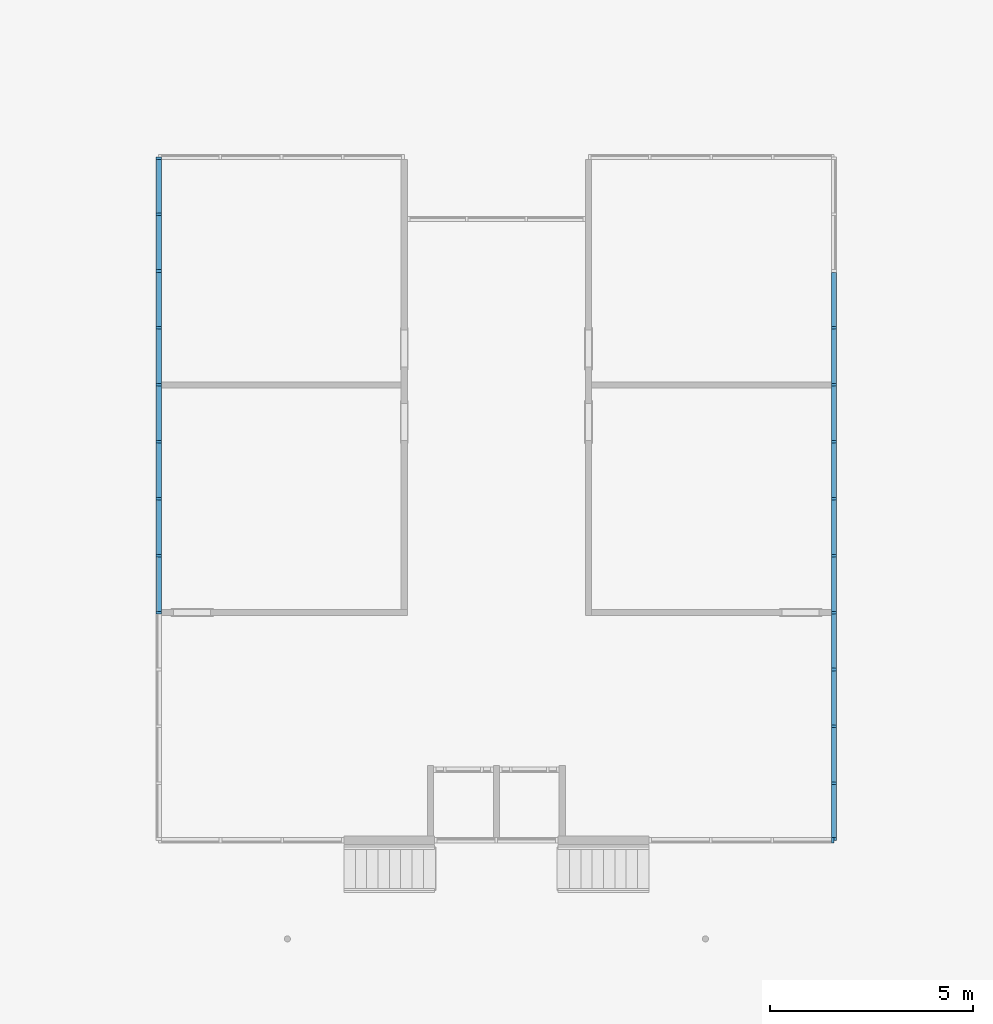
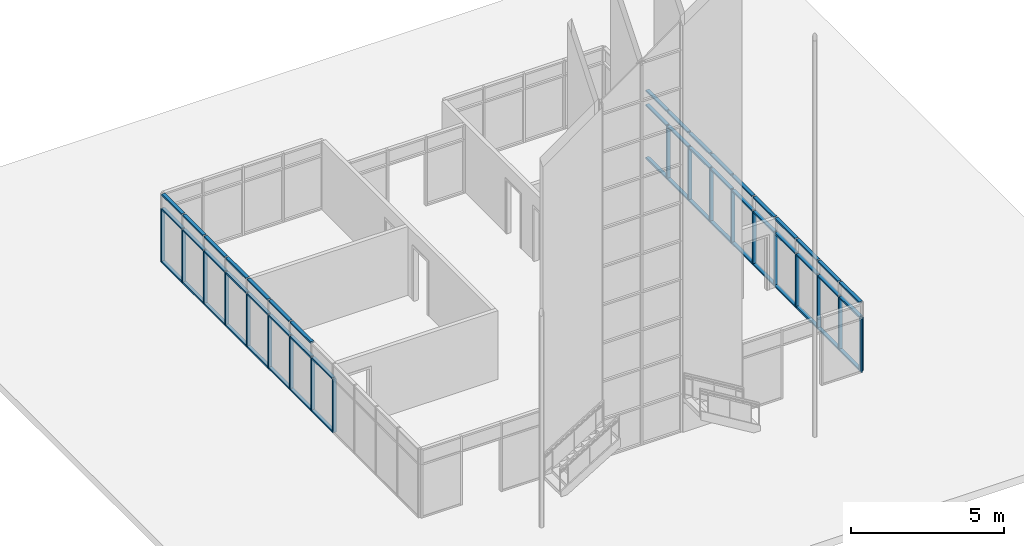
# One storey, part 3 of 12: 73 members, 3 elements without a shape of their own.
"""IFC2X3 building model written with IfcOpenShell, lengths in feet."""

from ifc_helpers import new_model, entity, si_unit, converted_unit, derived_unit, direction, frame, origin, origin_2d_with_axis, place, context, subcontext, project, spatial, rectangle, extrude, source, transform, mapped, material, type_object, type_shapes, element, aggregate, save


model = new_model("IFC2X3")

# Units and contexts
model_context = context("Model", 3, precision=0.0001, world=origin(), true_north=direction((6.12303176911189e-17, 1.0)))
body_context = subcontext(model_context, "Body", "Model", "MODEL_VIEW")
ifc_project = project(units=[converted_unit("LENGTHUNIT", "FOOT", entity("IfcRatioMeasure", 0.3048), si_unit("LENGTHUNIT", "METRE"), dimensions=[1, 0, 0, 0, 0, 0, 0]), converted_unit("AREAUNIT", "SQUARE FOOT", entity("IfcRatioMeasure", 0.09290304), si_unit("AREAUNIT", "SQUARE_METRE"), dimensions=[2, 0, 0, 0, 0, 0, 0]), converted_unit("VOLUMEUNIT", "CUBIC FOOT", entity("IfcRatioMeasure", 0.028316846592), si_unit("VOLUMEUNIT", "CUBIC_METRE"), dimensions=[3, 0, 0, 0, 0, 0, 0]), converted_unit("PLANEANGLEUNIT", "DEGREE", entity("IfcRatioMeasure", 0.0174532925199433), si_unit("PLANEANGLEUNIT", "RADIAN"), dimensions=[0, 0, 0, 0, 0, 0, 0]), si_unit("MASSUNIT", "GRAM", prefix="KILO"), derived_unit("MASSDENSITYUNIT", [(si_unit("MASSUNIT", "GRAM", prefix="KILO"), 1), (si_unit("LENGTHUNIT", "METRE"), -3)]), si_unit("TIMEUNIT", "SECOND"), si_unit("FREQUENCYUNIT", "HERTZ"), si_unit("THERMODYNAMICTEMPERATUREUNIT", "DEGREE_CELSIUS"), derived_unit("THERMALTRANSMITTANCEUNIT", [(si_unit("MASSUNIT", "GRAM", prefix="KILO"), 1), (si_unit("THERMODYNAMICTEMPERATUREUNIT", "KELVIN"), -1), (si_unit("TIMEUNIT", "SECOND"), -3)]), derived_unit("VOLUMETRICFLOWRATEUNIT", [(si_unit("LENGTHUNIT", "METRE"), 3), (si_unit("TIMEUNIT", "SECOND"), -1)]), si_unit("ELECTRICCURRENTUNIT", "AMPERE"), si_unit("ELECTRICVOLTAGEUNIT", "VOLT"), si_unit("POWERUNIT", "WATT"), si_unit("FORCEUNIT", "NEWTON"), si_unit("ILLUMINANCEUNIT", "LUX"), si_unit("LUMINOUSFLUXUNIT", "LUMEN"), si_unit("LUMINOUSINTENSITYUNIT", "CANDELA"), derived_unit("USERDEFINED", [(si_unit("MASSUNIT", "GRAM", prefix="KILO"), -1), (si_unit("LENGTHUNIT", "METRE"), -2), (si_unit("TIMEUNIT", "SECOND"), 3), (si_unit("LUMINOUSFLUXUNIT", "LUMEN"), 1)]), derived_unit("LINEARVELOCITYUNIT", [(si_unit("LENGTHUNIT", "METRE"), 1), (si_unit("TIMEUNIT", "SECOND"), -1)]), si_unit("PRESSUREUNIT", "PASCAL"), derived_unit("USERDEFINED", [(si_unit("LENGTHUNIT", "METRE"), -2), (si_unit("MASSUNIT", "GRAM", prefix="KILO"), 1), (si_unit("TIMEUNIT", "SECOND"), -2)])], contexts=[model_context])

# Site, building, storey
site_placement = place(None, origin())
site = spatial("IfcSite", under=ifc_project, at=site_placement, Name="Default", CompositionType="ELEMENT")
building_placement = place(site_placement, origin())
building = spatial("IfcBuilding", under=site, at=building_placement, CompositionType="ELEMENT")
storey_placement = place(building_placement, origin())
storey = spatial("IfcBuildingStorey", under=building, at=storey_placement, Name="Level 1", CompositionType="ELEMENT", Elevation=0.0)

# Curtain wall, member
curtain_wall_type = type_object("IfcCurtainWallType", Name="Curtain Wall:Storefront 2", PredefinedType="NOTDEFINED")
curtain_wall_1_placement = place(storey_placement, origin())
curtain_wall_1 = element("IfcCurtainWall", 1, at=curtain_wall_1_placement, inside=storey, type_object=curtain_wall_type, Name="Curtain Wall:Storefront 2", ObjectType="Curtain Wall:Storefront 2")
ifc_material = material(Name="Aluminum")
member_type_1 = type_object("IfcMemberType", Name="2.5\" x 5\" rectangular", PredefinedType="MEMBER")
shared_shape_1 = source(origin(), body_context, "Body", "SweptSolid", [
    extrude(rectangle(XDim=0.416666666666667, YDim=0.208333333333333, at=origin_2d_with_axis()), frame((-0.104166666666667, 0.0, -7.0), z_axis=(0.0, 0.0, 1.0), x_axis=(0.0, -1.0, 0.0)), (0.0, 0.0, 1.0), 7.0),
])
type_shapes(member_type_1, [shared_shape_1])
member_1_placement = place(storey_placement, frame((-61.3251627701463, 48.3505254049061, 0.0), z_axis=(0.0, 0.0, -1.0), x_axis=(0.0, 1.0, 0.0)))
member_1 = element("IfcMember", 2, at=member_1_placement, type_object=member_type_1, material=ifc_material, Name="Rectangular Mullion:2.5\" x 5\" rectangular", ObjectType="2.5\" x 5\" rectangular", context=body_context, shape_type="MappedRepresentation", body=[
    mapped(shared_shape_1, transform((0.0, 0.0, 0.0), scale=1.0)),
])

curtain_wall_2_placement = place(storey_placement, origin())
curtain_wall_2 = element("IfcCurtainWall", 3, at=curtain_wall_2_placement, inside=storey, type_object=curtain_wall_type, Name="Curtain Wall:Storefront 2", ObjectType="Curtain Wall:Storefront 2")
member_2_placement = place(storey_placement, frame((-6.65849610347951, -6.9411412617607, 0.0), z_axis=(0.0, 0.0, -1.0), x_axis=(0.0, -1.0, 0.0)))
member_2 = element("IfcMember", 4, at=member_2_placement, type_object=member_type_1, material=ifc_material, Name="Rectangular Mullion:2.5\" x 5\" rectangular", ObjectType="2.5\" x 5\" rectangular", context=body_context, shape_type="MappedRepresentation", body=[
    mapped(shared_shape_1, transform((0.0, 0.0, 0.0), scale=1.0)),
])

curtain_wall_3_placement = place(storey_placement, origin())
curtain_wall_3 = element("IfcCurtainWall", 5, at=curtain_wall_3_placement, inside=storey, type_object=curtain_wall_type, Name="Curtain Wall:Storefront 2", ObjectType="Curtain Wall:Storefront 2")
member_type_2 = type_object("IfcMemberType", Name="2.5\" x 5\" rectangular", PredefinedType="MEMBER")
shared_shape_2 = source(origin(), body_context, "Body", "SweptSolid", [
    extrude(rectangle(XDim=0.416666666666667, YDim=0.208333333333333, at=origin_2d_with_axis()), frame((-0.104166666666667, 0.0, -7.0), z_axis=(0.0, 0.0, 1.0), x_axis=(0.0, -1.0, 0.0)), (0.0, 0.0, 1.0), 7.0),
])
type_shapes(member_type_2, [shared_shape_2])
member_3_placement = place(storey_placement, frame((-6.65849610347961, -6.94114126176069, 7.0)))
member_3 = element("IfcMember", 6, at=member_3_placement, type_object=member_type_2, material=ifc_material, Name="Rectangular Mullion:2.5\" x 5\" rectangular", ObjectType="2.5\" x 5\" rectangular", context=body_context, shape_type="MappedRepresentation", body=[
    mapped(shared_shape_2, transform((0.0, 0.0, 0.0), scale=1.0)),
])
aggregate(curtain_wall_3, [member_3])

# Member
member_type_3 = type_object("IfcMemberType", Name="2.5\" x 5\" rectangular", PredefinedType="MEMBER")
shared_shape_3 = source(origin(), body_context, "Body", "SweptSolid", [
    extrude(rectangle(XDim=0.416666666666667, YDim=0.208333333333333, at=origin_2d_with_axis()), frame((0.0, 0.0, -7.0), z_axis=(0.0, 0.0, 1.0), x_axis=(0.0, -1.0, 0.0)), (0.0, 0.0, 1.0), 7.0),
])
type_shapes(member_type_3, [shared_shape_3])
member_4_placement = place(storey_placement, frame((-61.3251627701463, 11.489414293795, 0.0), z_axis=(0.0, 0.0, -1.0), x_axis=(0.0, 1.0, 0.0)))
member_4 = element("IfcMember", 7, at=member_4_placement, type_object=member_type_3, material=ifc_material, Name="Rectangular Mullion:2.5\" x 5\" rectangular", ObjectType="2.5\" x 5\" rectangular", context=body_context, shape_type="MappedRepresentation", body=[
    mapped(shared_shape_3, transform((0.0, 0.0, 0.0), scale=1.0)),
])

member_5_placement = place(storey_placement, frame((-61.3251627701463, 16.0970531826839, 0.0), z_axis=(0.0, 0.0, -1.0), x_axis=(0.0, 1.0, 0.0)))
member_5 = element("IfcMember", 8, at=member_5_placement, type_object=member_type_3, material=ifc_material, Name="Rectangular Mullion:2.5\" x 5\" rectangular", ObjectType="2.5\" x 5\" rectangular", context=body_context, shape_type="MappedRepresentation", body=[
    mapped(shared_shape_3, transform((0.0, 0.0, 0.0), scale=1.0)),
])

member_6_placement = place(storey_placement, frame((-61.3251627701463, 20.7046920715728, 0.0), z_axis=(0.0, 0.0, -1.0), x_axis=(0.0, 1.0, 0.0)))
member_6 = element("IfcMember", 9, at=member_6_placement, type_object=member_type_3, material=ifc_material, Name="Rectangular Mullion:2.5\" x 5\" rectangular", ObjectType="2.5\" x 5\" rectangular", context=body_context, shape_type="MappedRepresentation", body=[
    mapped(shared_shape_3, transform((0.0, 0.0, 0.0), scale=1.0)),
])

member_7_placement = place(storey_placement, frame((-61.3251627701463, 25.3123309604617, 0.0), z_axis=(0.0, 0.0, -1.0), x_axis=(0.0, 1.0, 0.0)))
member_7 = element("IfcMember", 10, at=member_7_placement, type_object=member_type_3, material=ifc_material, Name="Rectangular Mullion:2.5\" x 5\" rectangular", ObjectType="2.5\" x 5\" rectangular", context=body_context, shape_type="MappedRepresentation", body=[
    mapped(shared_shape_3, transform((0.0, 0.0, 0.0), scale=1.0)),
])

member_8_placement = place(storey_placement, frame((-61.3251627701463, 29.9199698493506, 0.0), z_axis=(0.0, 0.0, -1.0), x_axis=(0.0, 1.0, 0.0)))
member_8 = element("IfcMember", 11, at=member_8_placement, type_object=member_type_3, material=ifc_material, Name="Rectangular Mullion:2.5\" x 5\" rectangular", ObjectType="2.5\" x 5\" rectangular", context=body_context, shape_type="MappedRepresentation", body=[
    mapped(shared_shape_3, transform((0.0, 0.0, 0.0), scale=1.0)),
])

member_9_placement = place(storey_placement, frame((-61.3251627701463, 34.5276087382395, 0.0), z_axis=(0.0, 0.0, -1.0), x_axis=(0.0, 1.0, 0.0)))
member_9 = element("IfcMember", 12, at=member_9_placement, type_object=member_type_3, material=ifc_material, Name="Rectangular Mullion:2.5\" x 5\" rectangular", ObjectType="2.5\" x 5\" rectangular", context=body_context, shape_type="MappedRepresentation", body=[
    mapped(shared_shape_3, transform((0.0, 0.0, 0.0), scale=1.0)),
])

member_10_placement = place(storey_placement, frame((-61.3251627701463, 39.1352476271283, 0.0), z_axis=(0.0, 0.0, -1.0), x_axis=(0.0, 1.0, 0.0)))
member_10 = element("IfcMember", 13, at=member_10_placement, type_object=member_type_3, material=ifc_material, Name="Rectangular Mullion:2.5\" x 5\" rectangular", ObjectType="2.5\" x 5\" rectangular", context=body_context, shape_type="MappedRepresentation", body=[
    mapped(shared_shape_3, transform((0.0, 0.0, 0.0), scale=1.0)),
])

member_11_placement = place(storey_placement, frame((-61.3251627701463, 43.7428865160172, 0.0), z_axis=(0.0, 0.0, -1.0), x_axis=(0.0, 1.0, 0.0)))
member_11 = element("IfcMember", 14, at=member_11_placement, type_object=member_type_3, material=ifc_material, Name="Rectangular Mullion:2.5\" x 5\" rectangular", ObjectType="2.5\" x 5\" rectangular", context=body_context, shape_type="MappedRepresentation", body=[
    mapped(shared_shape_3, transform((0.0, 0.0, 0.0), scale=1.0)),
])

member_12_placement = place(storey_placement, frame((-6.65849610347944, 34.5276087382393, 0.0), z_axis=(0.0, 0.0, -1.0), x_axis=(0.0, -1.0, 0.0)))
member_12 = element("IfcMember", 15, at=member_12_placement, type_object=member_type_3, material=ifc_material, Name="Rectangular Mullion:2.5\" x 5\" rectangular", ObjectType="2.5\" x 5\" rectangular", context=body_context, shape_type="MappedRepresentation", body=[
    mapped(shared_shape_3, transform((0.0, 0.0, 0.0), scale=1.0)),
])

member_13_placement = place(storey_placement, frame((-6.65849610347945, 29.9199698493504, 0.0), z_axis=(0.0, 0.0, -1.0), x_axis=(0.0, -1.0, 0.0)))
member_13 = element("IfcMember", 16, at=member_13_placement, type_object=member_type_3, material=ifc_material, Name="Rectangular Mullion:2.5\" x 5\" rectangular", ObjectType="2.5\" x 5\" rectangular", context=body_context, shape_type="MappedRepresentation", body=[
    mapped(shared_shape_3, transform((0.0, 0.0, 0.0), scale=1.0)),
])

member_14_placement = place(storey_placement, frame((-6.65849610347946, 25.3123309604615, 0.0), z_axis=(0.0, 0.0, -1.0), x_axis=(0.0, -1.0, 0.0)))
member_14 = element("IfcMember", 17, at=member_14_placement, type_object=member_type_3, material=ifc_material, Name="Rectangular Mullion:2.5\" x 5\" rectangular", ObjectType="2.5\" x 5\" rectangular", context=body_context, shape_type="MappedRepresentation", body=[
    mapped(shared_shape_3, transform((0.0, 0.0, 0.0), scale=1.0)),
])

member_15_placement = place(storey_placement, frame((-6.65849610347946, 20.7046920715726, 0.0), z_axis=(0.0, 0.0, -1.0), x_axis=(0.0, -1.0, 0.0)))
member_15 = element("IfcMember", 18, at=member_15_placement, type_object=member_type_3, material=ifc_material, Name="Rectangular Mullion:2.5\" x 5\" rectangular", ObjectType="2.5\" x 5\" rectangular", context=body_context, shape_type="MappedRepresentation", body=[
    mapped(shared_shape_3, transform((0.0, 0.0, 0.0), scale=1.0)),
])

member_16_placement = place(storey_placement, frame((-6.65849610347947, 16.0970531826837, 0.0), z_axis=(0.0, 0.0, -1.0), x_axis=(0.0, -1.0, 0.0)))
member_16 = element("IfcMember", 19, at=member_16_placement, type_object=member_type_3, material=ifc_material, Name="Rectangular Mullion:2.5\" x 5\" rectangular", ObjectType="2.5\" x 5\" rectangular", context=body_context, shape_type="MappedRepresentation", body=[
    mapped(shared_shape_3, transform((0.0, 0.0, 0.0), scale=1.0)),
])

member_17_placement = place(storey_placement, frame((-6.65849610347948, 11.4894142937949, 0.0), z_axis=(0.0, 0.0, -1.0), x_axis=(0.0, -1.0, 0.0)))
member_17 = element("IfcMember", 20, at=member_17_placement, type_object=member_type_3, material=ifc_material, Name="Rectangular Mullion:2.5\" x 5\" rectangular", ObjectType="2.5\" x 5\" rectangular", context=body_context, shape_type="MappedRepresentation", body=[
    mapped(shared_shape_3, transform((0.0, 0.0, 0.0), scale=1.0)),
])

member_18_placement = place(storey_placement, frame((-6.65849610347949, 6.88177540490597, 0.0), z_axis=(0.0, 0.0, -1.0), x_axis=(0.0, -1.0, 0.0)))
member_18 = element("IfcMember", 21, at=member_18_placement, type_object=member_type_3, material=ifc_material, Name="Rectangular Mullion:2.5\" x 5\" rectangular", ObjectType="2.5\" x 5\" rectangular", context=body_context, shape_type="MappedRepresentation", body=[
    mapped(shared_shape_3, transform((0.0, 0.0, 0.0), scale=1.0)),
])

member_19_placement = place(storey_placement, frame((-6.65849610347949, 2.27413651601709, 0.0), z_axis=(0.0, 0.0, -1.0), x_axis=(0.0, -1.0, 0.0)))
member_19 = element("IfcMember", 22, at=member_19_placement, type_object=member_type_3, material=ifc_material, Name="Rectangular Mullion:2.5\" x 5\" rectangular", ObjectType="2.5\" x 5\" rectangular", context=body_context, shape_type="MappedRepresentation", body=[
    mapped(shared_shape_3, transform((0.0, 0.0, 0.0), scale=1.0)),
])

member_20_placement = place(storey_placement, frame((-6.6584961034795, -2.3335023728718, 0.0), z_axis=(0.0, 0.0, -1.0), x_axis=(0.0, -1.0, 0.0)))
member_20 = element("IfcMember", 23, at=member_20_placement, type_object=member_type_3, material=ifc_material, Name="Rectangular Mullion:2.5\" x 5\" rectangular", ObjectType="2.5\" x 5\" rectangular", context=body_context, shape_type="MappedRepresentation", body=[
    mapped(shared_shape_3, transform((0.0, 0.0, 0.0), scale=1.0)),
])

member_type_4 = type_object("IfcMemberType", Name="2.5\" x 5\" rectangular", PredefinedType="MEMBER")
shared_shape_4 = source(origin(), body_context, "Body", "SweptSolid", [
    extrude(rectangle(XDim=0.416666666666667, YDim=0.208333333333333, at=origin_2d_with_axis()), frame((-0.104166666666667, 0.0, -4.2951388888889), z_axis=(0.0, 0.0, 1.0), x_axis=(0.0, -1.0, 0.0)), (0.0, 0.0, 1.0), 4.2951388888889),
])
type_shapes(member_type_4, [shared_shape_4])
member_21_placement = place(storey_placement, frame((-61.3251627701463, 48.1421920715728, 9.0), z_axis=(0.0, 1.0, 0.0), x_axis=(0.0, 0.0, 1.0)))
member_21 = element("IfcMember", 24, at=member_21_placement, type_object=member_type_4, material=ifc_material, Name="Rectangular Mullion:2.5\" x 5\" rectangular", ObjectType="2.5\" x 5\" rectangular", context=body_context, shape_type="MappedRepresentation", body=[
    mapped(shared_shape_4, transform((0.0, 0.0, 0.0), scale=1.0)),
])

member_22_placement = place(storey_placement, frame((-6.65849610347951, -6.73280792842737, 9.0), z_axis=(0.0, -1.0, 0.0), x_axis=(0.0, 0.0, 1.0)))
member_22 = element("IfcMember", 25, at=member_22_placement, type_object=member_type_4, material=ifc_material, Name="Rectangular Mullion:2.5\" x 5\" rectangular", ObjectType="2.5\" x 5\" rectangular", context=body_context, shape_type="MappedRepresentation", body=[
    mapped(shared_shape_4, transform((0.0, 0.0, 0.0), scale=1.0)),
])

member_type_5 = type_object("IfcMemberType", Name="2.5\" x 5\" rectangular", PredefinedType="MEMBER")
shared_shape_5 = source(origin(), body_context, "Body", "SweptSolid", [
    extrude(rectangle(XDim=0.416666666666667, YDim=0.208333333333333, at=origin_2d_with_axis()), frame((-0.104166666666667, 0.0, -4.39930555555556), z_axis=(0.0, 0.0, 1.0), x_axis=(0.0, -1.0, 0.0)), (0.0, 0.0, 1.0), 4.39930555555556),
])
type_shapes(member_type_5, [shared_shape_5])
member_23_placement = place(storey_placement, frame((-61.3251627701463, 20.6005254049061, 9.0), z_axis=(0.0, 1.0, 0.0), x_axis=(0.0, 0.0, 1.0)))
member_23 = element("IfcMember", 26, at=member_23_placement, type_object=member_type_5, material=ifc_material, Name="Rectangular Mullion:2.5\" x 5\" rectangular", ObjectType="2.5\" x 5\" rectangular", context=body_context, shape_type="MappedRepresentation", body=[
    mapped(shared_shape_5, transform((0.0, 0.0, 0.0), scale=1.0)),
])

member_24_placement = place(storey_placement, frame((-61.3251627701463, 25.208164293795, 9.0), z_axis=(0.0, 1.0, 0.0), x_axis=(0.0, 0.0, 1.0)))
member_24 = element("IfcMember", 27, at=member_24_placement, type_object=member_type_5, material=ifc_material, Name="Rectangular Mullion:2.5\" x 5\" rectangular", ObjectType="2.5\" x 5\" rectangular", context=body_context, shape_type="MappedRepresentation", body=[
    mapped(shared_shape_5, transform((0.0, 0.0, 0.0), scale=1.0)),
])

member_25_placement = place(storey_placement, frame((-61.3251627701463, 29.8158031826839, 9.0), z_axis=(0.0, 1.0, 0.0), x_axis=(0.0, 0.0, 1.0)))
member_25 = element("IfcMember", 28, at=member_25_placement, type_object=member_type_5, material=ifc_material, Name="Rectangular Mullion:2.5\" x 5\" rectangular", ObjectType="2.5\" x 5\" rectangular", context=body_context, shape_type="MappedRepresentation", body=[
    mapped(shared_shape_5, transform((0.0, 0.0, 0.0), scale=1.0)),
])

member_26_placement = place(storey_placement, frame((-61.3251627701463, 34.4234420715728, 9.0), z_axis=(0.0, 1.0, 0.0), x_axis=(0.0, 0.0, 1.0)))
member_26 = element("IfcMember", 29, at=member_26_placement, type_object=member_type_5, material=ifc_material, Name="Rectangular Mullion:2.5\" x 5\" rectangular", ObjectType="2.5\" x 5\" rectangular", context=body_context, shape_type="MappedRepresentation", body=[
    mapped(shared_shape_5, transform((0.0, 0.0, 0.0), scale=1.0)),
])

member_27_placement = place(storey_placement, frame((-61.3251627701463, 39.0310809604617, 9.0), z_axis=(0.0, 1.0, 0.0), x_axis=(0.0, 0.0, 1.0)))
member_27 = element("IfcMember", 30, at=member_27_placement, type_object=member_type_5, material=ifc_material, Name="Rectangular Mullion:2.5\" x 5\" rectangular", ObjectType="2.5\" x 5\" rectangular", context=body_context, shape_type="MappedRepresentation", body=[
    mapped(shared_shape_5, transform((0.0, 0.0, 0.0), scale=1.0)),
])

member_28_placement = place(storey_placement, frame((-61.3251627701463, 43.6387198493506, 9.0), z_axis=(0.0, 1.0, 0.0), x_axis=(0.0, 0.0, 1.0)))
member_28 = element("IfcMember", 31, at=member_28_placement, type_object=member_type_5, material=ifc_material, Name="Rectangular Mullion:2.5\" x 5\" rectangular", ObjectType="2.5\" x 5\" rectangular", context=body_context, shape_type="MappedRepresentation", body=[
    mapped(shared_shape_5, transform((0.0, 0.0, 0.0), scale=1.0)),
])

member_29_placement = place(storey_placement, frame((-6.65849610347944, 34.631775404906, 9.0), z_axis=(0.0, -1.0, 0.0), x_axis=(0.0, 0.0, 1.0)))
member_29 = element("IfcMember", 32, at=member_29_placement, type_object=member_type_5, material=ifc_material, Name="Rectangular Mullion:2.5\" x 5\" rectangular", ObjectType="2.5\" x 5\" rectangular", context=body_context, shape_type="MappedRepresentation", body=[
    mapped(shared_shape_5, transform((0.0, 0.0, 0.0), scale=1.0)),
])

member_30_placement = place(storey_placement, frame((-6.65849610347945, 30.0241365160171, 9.0), z_axis=(0.0, -1.0, 0.0), x_axis=(0.0, 0.0, 1.0)))
member_30 = element("IfcMember", 33, at=member_30_placement, type_object=member_type_5, material=ifc_material, Name="Rectangular Mullion:2.5\" x 5\" rectangular", ObjectType="2.5\" x 5\" rectangular", context=body_context, shape_type="MappedRepresentation", body=[
    mapped(shared_shape_5, transform((0.0, 0.0, 0.0), scale=1.0)),
])

member_31_placement = place(storey_placement, frame((-6.65849610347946, 25.4164976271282, 9.0), z_axis=(0.0, -1.0, 0.0), x_axis=(0.0, 0.0, 1.0)))
member_31 = element("IfcMember", 34, at=member_31_placement, type_object=member_type_5, material=ifc_material, Name="Rectangular Mullion:2.5\" x 5\" rectangular", ObjectType="2.5\" x 5\" rectangular", context=body_context, shape_type="MappedRepresentation", body=[
    mapped(shared_shape_5, transform((0.0, 0.0, 0.0), scale=1.0)),
])

member_32_placement = place(storey_placement, frame((-6.65849610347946, 20.8088587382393, 9.0), z_axis=(0.0, -1.0, 0.0), x_axis=(0.0, 0.0, 1.0)))
member_32 = element("IfcMember", 35, at=member_32_placement, type_object=member_type_5, material=ifc_material, Name="Rectangular Mullion:2.5\" x 5\" rectangular", ObjectType="2.5\" x 5\" rectangular", context=body_context, shape_type="MappedRepresentation", body=[
    mapped(shared_shape_5, transform((0.0, 0.0, 0.0), scale=1.0)),
])

member_33_placement = place(storey_placement, frame((-6.65849610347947, 16.2012198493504, 9.0), z_axis=(0.0, -1.0, 0.0), x_axis=(0.0, 0.0, 1.0)))
member_33 = element("IfcMember", 36, at=member_33_placement, type_object=member_type_5, material=ifc_material, Name="Rectangular Mullion:2.5\" x 5\" rectangular", ObjectType="2.5\" x 5\" rectangular", context=body_context, shape_type="MappedRepresentation", body=[
    mapped(shared_shape_5, transform((0.0, 0.0, 0.0), scale=1.0)),
])

member_34_placement = place(storey_placement, frame((-6.65849610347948, 11.5935809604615, 9.0), z_axis=(0.0, -1.0, 0.0), x_axis=(0.0, 0.0, 1.0)))
member_34 = element("IfcMember", 37, at=member_34_placement, type_object=member_type_5, material=ifc_material, Name="Rectangular Mullion:2.5\" x 5\" rectangular", ObjectType="2.5\" x 5\" rectangular", context=body_context, shape_type="MappedRepresentation", body=[
    mapped(shared_shape_5, transform((0.0, 0.0, 0.0), scale=1.0)),
])

member_35_placement = place(storey_placement, frame((-6.65849610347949, 6.98594207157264, 9.0), z_axis=(0.0, -1.0, 0.0), x_axis=(0.0, 0.0, 1.0)))
member_35 = element("IfcMember", 38, at=member_35_placement, type_object=member_type_5, material=ifc_material, Name="Rectangular Mullion:2.5\" x 5\" rectangular", ObjectType="2.5\" x 5\" rectangular", context=body_context, shape_type="MappedRepresentation", body=[
    mapped(shared_shape_5, transform((0.0, 0.0, 0.0), scale=1.0)),
])

member_36_placement = place(storey_placement, frame((-6.65849610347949, 2.37830318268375, 9.0), z_axis=(0.0, -1.0, 0.0), x_axis=(0.0, 0.0, 1.0)))
member_36 = element("IfcMember", 39, at=member_36_placement, type_object=member_type_5, material=ifc_material, Name="Rectangular Mullion:2.5\" x 5\" rectangular", ObjectType="2.5\" x 5\" rectangular", context=body_context, shape_type="MappedRepresentation", body=[
    mapped(shared_shape_5, transform((0.0, 0.0, 0.0), scale=1.0)),
])

member_37_placement = place(storey_placement, frame((-6.6584961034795, -2.22933570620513, 9.0), z_axis=(0.0, -1.0, 0.0), x_axis=(0.0, 0.0, 1.0)))
member_37 = element("IfcMember", 40, at=member_37_placement, type_object=member_type_5, material=ifc_material, Name="Rectangular Mullion:2.5\" x 5\" rectangular", ObjectType="2.5\" x 5\" rectangular", context=body_context, shape_type="MappedRepresentation", body=[
    mapped(shared_shape_5, transform((0.0, 0.0, 0.0), scale=1.0)),
])

member_type_6 = type_object("IfcMemberType", Name="2.5\" x 5\" rectangular", PredefinedType="MEMBER")
shared_shape_6 = source(origin(), body_context, "Body", "SweptSolid", [
    extrude(rectangle(XDim=0.416666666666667, YDim=0.208333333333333, at=origin_2d_with_axis()), frame((-0.104166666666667, 0.0, -4.29513888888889), z_axis=(0.0, 0.0, 1.0), x_axis=(0.0, -1.0, 0.0)), (0.0, 0.0, 1.0), 4.29513888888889),
])
type_shapes(member_type_6, [shared_shape_6])
member_38_placement = place(storey_placement, frame((-61.3251627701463, 43.8470531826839, 0.0), z_axis=(0.0, -1.0, 0.0), x_axis=(0.0, 0.0, -1.0)))
member_38 = element("IfcMember", 41, at=member_38_placement, type_object=member_type_6, material=ifc_material, Name="Rectangular Mullion:2.5\" x 5\" rectangular", ObjectType="2.5\" x 5\" rectangular", context=body_context, shape_type="MappedRepresentation", body=[
    mapped(shared_shape_6, transform((0.0, 0.0, 0.0), scale=1.0)),
])

member_39_placement = place(storey_placement, frame((-6.6584961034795, -2.43766903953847, 0.0), z_axis=(0.0, 1.0, 0.0), x_axis=(0.0, 0.0, -1.0)))
member_39 = element("IfcMember", 42, at=member_39_placement, type_object=member_type_6, material=ifc_material, Name="Rectangular Mullion:2.5\" x 5\" rectangular", ObjectType="2.5\" x 5\" rectangular", context=body_context, shape_type="MappedRepresentation", body=[
    mapped(shared_shape_6, transform((0.0, 0.0, 0.0), scale=1.0)),
])

member_type_7 = type_object("IfcMemberType", Name="2.5\" x 5\" rectangular", PredefinedType="MEMBER")
shared_shape_7 = source(origin(), body_context, "Body", "SweptSolid", [
    extrude(rectangle(XDim=0.416666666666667, YDim=0.208333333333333, at=origin_2d_with_axis()), frame((-0.104166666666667, 0.0, -4.39930555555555), z_axis=(0.0, 0.0, 1.0), x_axis=(0.0, -1.0, 0.0)), (0.0, 0.0, 1.0), 4.39930555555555),
])
type_shapes(member_type_7, [shared_shape_7])
member_40_placement = place(storey_placement, frame((-61.3251627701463, 11.5935809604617, 0.0), z_axis=(0.0, -1.0, 0.0), x_axis=(0.0, 0.0, -1.0)))
member_40 = element("IfcMember", 43, at=member_40_placement, type_object=member_type_7, material=ifc_material, Name="Rectangular Mullion:2.5\" x 5\" rectangular", ObjectType="2.5\" x 5\" rectangular", context=body_context, shape_type="MappedRepresentation", body=[
    mapped(shared_shape_7, transform((0.0, 0.0, 0.0), scale=1.0)),
])

member_41_placement = place(storey_placement, frame((-61.3251627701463, 16.2012198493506, 0.0), z_axis=(0.0, -1.0, 0.0), x_axis=(0.0, 0.0, -1.0)))
member_41 = element("IfcMember", 44, at=member_41_placement, type_object=member_type_7, material=ifc_material, Name="Rectangular Mullion:2.5\" x 5\" rectangular", ObjectType="2.5\" x 5\" rectangular", context=body_context, shape_type="MappedRepresentation", body=[
    mapped(shared_shape_7, transform((0.0, 0.0, 0.0), scale=1.0)),
])

member_42_placement = place(storey_placement, frame((-61.3251627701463, 20.8088587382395, 0.0), z_axis=(0.0, -1.0, 0.0), x_axis=(0.0, 0.0, -1.0)))
member_42 = element("IfcMember", 45, at=member_42_placement, type_object=member_type_7, material=ifc_material, Name="Rectangular Mullion:2.5\" x 5\" rectangular", ObjectType="2.5\" x 5\" rectangular", context=body_context, shape_type="MappedRepresentation", body=[
    mapped(shared_shape_7, transform((0.0, 0.0, 0.0), scale=1.0)),
])

member_43_placement = place(storey_placement, frame((-61.3251627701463, 25.4164976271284, 0.0), z_axis=(0.0, -1.0, 0.0), x_axis=(0.0, 0.0, -1.0)))
member_43 = element("IfcMember", 46, at=member_43_placement, type_object=member_type_7, material=ifc_material, Name="Rectangular Mullion:2.5\" x 5\" rectangular", ObjectType="2.5\" x 5\" rectangular", context=body_context, shape_type="MappedRepresentation", body=[
    mapped(shared_shape_7, transform((0.0, 0.0, 0.0), scale=1.0)),
])

member_44_placement = place(storey_placement, frame((-61.3251627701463, 30.0241365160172, 0.0), z_axis=(0.0, -1.0, 0.0), x_axis=(0.0, 0.0, -1.0)))
member_44 = element("IfcMember", 47, at=member_44_placement, type_object=member_type_7, material=ifc_material, Name="Rectangular Mullion:2.5\" x 5\" rectangular", ObjectType="2.5\" x 5\" rectangular", context=body_context, shape_type="MappedRepresentation", body=[
    mapped(shared_shape_7, transform((0.0, 0.0, 0.0), scale=1.0)),
])

member_45_placement = place(storey_placement, frame((-61.3251627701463, 34.6317754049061, 0.0), z_axis=(0.0, -1.0, 0.0), x_axis=(0.0, 0.0, -1.0)))
member_45 = element("IfcMember", 48, at=member_45_placement, type_object=member_type_7, material=ifc_material, Name="Rectangular Mullion:2.5\" x 5\" rectangular", ObjectType="2.5\" x 5\" rectangular", context=body_context, shape_type="MappedRepresentation", body=[
    mapped(shared_shape_7, transform((0.0, 0.0, 0.0), scale=1.0)),
])

member_46_placement = place(storey_placement, frame((-61.3251627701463, 39.239414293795, 0.0), z_axis=(0.0, -1.0, 0.0), x_axis=(0.0, 0.0, -1.0)))
member_46 = element("IfcMember", 49, at=member_46_placement, type_object=member_type_7, material=ifc_material, Name="Rectangular Mullion:2.5\" x 5\" rectangular", ObjectType="2.5\" x 5\" rectangular", context=body_context, shape_type="MappedRepresentation", body=[
    mapped(shared_shape_7, transform((0.0, 0.0, 0.0), scale=1.0)),
])

member_47_placement = place(storey_placement, frame((-6.65849610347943, 39.0310809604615, 0.0), z_axis=(0.0, 1.0, 0.0), x_axis=(0.0, 0.0, -1.0)))
member_47 = element("IfcMember", 50, at=member_47_placement, type_object=member_type_7, material=ifc_material, Name="Rectangular Mullion:2.5\" x 5\" rectangular", ObjectType="2.5\" x 5\" rectangular", context=body_context, shape_type="MappedRepresentation", body=[
    mapped(shared_shape_7, transform((0.0, 0.0, 0.0), scale=1.0)),
])

member_48_placement = place(storey_placement, frame((-6.65849610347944, 34.4234420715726, 0.0), z_axis=(0.0, 1.0, 0.0), x_axis=(0.0, 0.0, -1.0)))
member_48 = element("IfcMember", 51, at=member_48_placement, type_object=member_type_7, material=ifc_material, Name="Rectangular Mullion:2.5\" x 5\" rectangular", ObjectType="2.5\" x 5\" rectangular", context=body_context, shape_type="MappedRepresentation", body=[
    mapped(shared_shape_7, transform((0.0, 0.0, 0.0), scale=1.0)),
])

member_49_placement = place(storey_placement, frame((-6.65849610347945, 29.8158031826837, 0.0), z_axis=(0.0, 1.0, 0.0), x_axis=(0.0, 0.0, -1.0)))
member_49 = element("IfcMember", 52, at=member_49_placement, type_object=member_type_7, material=ifc_material, Name="Rectangular Mullion:2.5\" x 5\" rectangular", ObjectType="2.5\" x 5\" rectangular", context=body_context, shape_type="MappedRepresentation", body=[
    mapped(shared_shape_7, transform((0.0, 0.0, 0.0), scale=1.0)),
])

member_50_placement = place(storey_placement, frame((-6.65849610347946, 25.2081642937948, 0.0), z_axis=(0.0, 1.0, 0.0), x_axis=(0.0, 0.0, -1.0)))
member_50 = element("IfcMember", 53, at=member_50_placement, type_object=member_type_7, material=ifc_material, Name="Rectangular Mullion:2.5\" x 5\" rectangular", ObjectType="2.5\" x 5\" rectangular", context=body_context, shape_type="MappedRepresentation", body=[
    mapped(shared_shape_7, transform((0.0, 0.0, 0.0), scale=1.0)),
])

member_51_placement = place(storey_placement, frame((-6.65849610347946, 20.600525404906, 0.0), z_axis=(0.0, 1.0, 0.0), x_axis=(0.0, 0.0, -1.0)))
member_51 = element("IfcMember", 54, at=member_51_placement, type_object=member_type_7, material=ifc_material, Name="Rectangular Mullion:2.5\" x 5\" rectangular", ObjectType="2.5\" x 5\" rectangular", context=body_context, shape_type="MappedRepresentation", body=[
    mapped(shared_shape_7, transform((0.0, 0.0, 0.0), scale=1.0)),
])

member_52_placement = place(storey_placement, frame((-6.65849610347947, 15.9928865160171, 0.0), z_axis=(0.0, 1.0, 0.0), x_axis=(0.0, 0.0, -1.0)))
member_52 = element("IfcMember", 55, at=member_52_placement, type_object=member_type_7, material=ifc_material, Name="Rectangular Mullion:2.5\" x 5\" rectangular", ObjectType="2.5\" x 5\" rectangular", context=body_context, shape_type="MappedRepresentation", body=[
    mapped(shared_shape_7, transform((0.0, 0.0, 0.0), scale=1.0)),
])

member_53_placement = place(storey_placement, frame((-6.65849610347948, 11.3852476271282, 0.0), z_axis=(0.0, 1.0, 0.0), x_axis=(0.0, 0.0, -1.0)))
member_53 = element("IfcMember", 56, at=member_53_placement, type_object=member_type_7, material=ifc_material, Name="Rectangular Mullion:2.5\" x 5\" rectangular", ObjectType="2.5\" x 5\" rectangular", context=body_context, shape_type="MappedRepresentation", body=[
    mapped(shared_shape_7, transform((0.0, 0.0, 0.0), scale=1.0)),
])

member_54_placement = place(storey_placement, frame((-6.65849610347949, 6.77760873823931, 0.0), z_axis=(0.0, 1.0, 0.0), x_axis=(0.0, 0.0, -1.0)))
member_54 = element("IfcMember", 57, at=member_54_placement, type_object=member_type_7, material=ifc_material, Name="Rectangular Mullion:2.5\" x 5\" rectangular", ObjectType="2.5\" x 5\" rectangular", context=body_context, shape_type="MappedRepresentation", body=[
    mapped(shared_shape_7, transform((0.0, 0.0, 0.0), scale=1.0)),
])

member_55_placement = place(storey_placement, frame((-6.65849610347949, 2.16996984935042, 0.0), z_axis=(0.0, 1.0, 0.0), x_axis=(0.0, 0.0, -1.0)))
member_55 = element("IfcMember", 58, at=member_55_placement, type_object=member_type_7, material=ifc_material, Name="Rectangular Mullion:2.5\" x 5\" rectangular", ObjectType="2.5\" x 5\" rectangular", context=body_context, shape_type="MappedRepresentation", body=[
    mapped(shared_shape_7, transform((0.0, 0.0, 0.0), scale=1.0)),
])

member_type_8 = type_object("IfcMemberType", Name="2.5\" x 5\" rectangular", PredefinedType="MEMBER")
shared_shape_8 = source(origin(), body_context, "Body", "SweptSolid", [
    extrude(rectangle(XDim=0.416666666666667, YDim=0.208333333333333, at=origin_2d_with_axis()), frame((0.0, 0.0, -4.29513888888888), z_axis=(0.0, 0.0, 1.0), x_axis=(0.0, -1.0, 0.0)), (0.0, 0.0, 1.0), 4.29513888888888),
])
type_shapes(member_type_8, [shared_shape_8])
member_56_placement = place(storey_placement, frame((-61.3251627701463, 48.1421920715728, 7.0), z_axis=(0.0, 1.0, 0.0), x_axis=(0.0, 0.0, 1.0)))
member_56 = element("IfcMember", 59, at=member_56_placement, type_object=member_type_8, material=ifc_material, Name="Rectangular Mullion:2.5\" x 5\" rectangular", ObjectType="2.5\" x 5\" rectangular", context=body_context, shape_type="MappedRepresentation", body=[
    mapped(shared_shape_8, transform((0.0, 0.0, 0.0), scale=1.0)),
])

member_57_placement = place(storey_placement, frame((-6.65849610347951, -6.73280792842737, 7.0), z_axis=(0.0, -1.0, 0.0), x_axis=(0.0, 0.0, 1.0)))
member_57 = element("IfcMember", 60, at=member_57_placement, type_object=member_type_8, material=ifc_material, Name="Rectangular Mullion:2.5\" x 5\" rectangular", ObjectType="2.5\" x 5\" rectangular", context=body_context, shape_type="MappedRepresentation", body=[
    mapped(shared_shape_8, transform((0.0, 0.0, 0.0), scale=1.0)),
])

member_type_9 = type_object("IfcMemberType", Name="2.5\" x 5\" rectangular", PredefinedType="MEMBER")
shared_shape_9 = source(origin(), body_context, "Body", "SweptSolid", [
    extrude(rectangle(XDim=0.416666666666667, YDim=0.208333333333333, at=origin_2d_with_axis()), frame((0.0, 0.0, -4.39930555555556), z_axis=(0.0, 0.0, 1.0), x_axis=(0.0, -1.0, 0.0)), (0.0, 0.0, 1.0), 4.39930555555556),
])
type_shapes(member_type_9, [shared_shape_9])
member_58_placement = place(storey_placement, frame((-61.3251627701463, 15.9928865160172, 7.0), z_axis=(0.0, 1.0, 0.0), x_axis=(0.0, 0.0, 1.0)))
member_58 = element("IfcMember", 61, at=member_58_placement, type_object=member_type_9, material=ifc_material, Name="Rectangular Mullion:2.5\" x 5\" rectangular", ObjectType="2.5\" x 5\" rectangular", context=body_context, shape_type="MappedRepresentation", body=[
    mapped(shared_shape_9, transform((0.0, 0.0, 0.0), scale=1.0)),
])

member_59_placement = place(storey_placement, frame((-61.3251627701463, 20.6005254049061, 7.0), z_axis=(0.0, 1.0, 0.0), x_axis=(0.0, 0.0, 1.0)))
member_59 = element("IfcMember", 62, at=member_59_placement, type_object=member_type_9, material=ifc_material, Name="Rectangular Mullion:2.5\" x 5\" rectangular", ObjectType="2.5\" x 5\" rectangular", context=body_context, shape_type="MappedRepresentation", body=[
    mapped(shared_shape_9, transform((0.0, 0.0, 0.0), scale=1.0)),
])

member_60_placement = place(storey_placement, frame((-61.3251627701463, 25.208164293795, 7.0), z_axis=(0.0, 1.0, 0.0), x_axis=(0.0, 0.0, 1.0)))
member_60 = element("IfcMember", 63, at=member_60_placement, type_object=member_type_9, material=ifc_material, Name="Rectangular Mullion:2.5\" x 5\" rectangular", ObjectType="2.5\" x 5\" rectangular", context=body_context, shape_type="MappedRepresentation", body=[
    mapped(shared_shape_9, transform((0.0, 0.0, 0.0), scale=1.0)),
])

member_61_placement = place(storey_placement, frame((-61.3251627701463, 29.8158031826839, 7.0), z_axis=(0.0, 1.0, 0.0), x_axis=(0.0, 0.0, 1.0)))
member_61 = element("IfcMember", 64, at=member_61_placement, type_object=member_type_9, material=ifc_material, Name="Rectangular Mullion:2.5\" x 5\" rectangular", ObjectType="2.5\" x 5\" rectangular", context=body_context, shape_type="MappedRepresentation", body=[
    mapped(shared_shape_9, transform((0.0, 0.0, 0.0), scale=1.0)),
])

member_62_placement = place(storey_placement, frame((-61.3251627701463, 34.4234420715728, 7.0), z_axis=(0.0, 1.0, 0.0), x_axis=(0.0, 0.0, 1.0)))
member_62 = element("IfcMember", 65, at=member_62_placement, type_object=member_type_9, material=ifc_material, Name="Rectangular Mullion:2.5\" x 5\" rectangular", ObjectType="2.5\" x 5\" rectangular", context=body_context, shape_type="MappedRepresentation", body=[
    mapped(shared_shape_9, transform((0.0, 0.0, 0.0), scale=1.0)),
])

member_63_placement = place(storey_placement, frame((-61.3251627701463, 39.0310809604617, 7.0), z_axis=(0.0, 1.0, 0.0), x_axis=(0.0, 0.0, 1.0)))
member_63 = element("IfcMember", 66, at=member_63_placement, type_object=member_type_9, material=ifc_material, Name="Rectangular Mullion:2.5\" x 5\" rectangular", ObjectType="2.5\" x 5\" rectangular", context=body_context, shape_type="MappedRepresentation", body=[
    mapped(shared_shape_9, transform((0.0, 0.0, 0.0), scale=1.0)),
])

member_64_placement = place(storey_placement, frame((-61.3251627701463, 43.6387198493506, 7.0), z_axis=(0.0, 1.0, 0.0), x_axis=(0.0, 0.0, 1.0)))
member_64 = element("IfcMember", 67, at=member_64_placement, type_object=member_type_9, material=ifc_material, Name="Rectangular Mullion:2.5\" x 5\" rectangular", ObjectType="2.5\" x 5\" rectangular", context=body_context, shape_type="MappedRepresentation", body=[
    mapped(shared_shape_9, transform((0.0, 0.0, 0.0), scale=1.0)),
])

aggregate(curtain_wall_1, [member_21, member_23, member_24, member_25, member_26, member_40, member_41, member_42, member_43, member_44, member_45, member_1, member_58, member_59, member_60, member_61, member_62, member_63, member_4, member_5, member_6, member_7, member_8, member_9, member_27, member_46, member_64, member_10, member_28, member_38, member_56, member_11])

member_65_placement = place(storey_placement, frame((-6.65849610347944, 34.631775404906, 7.0), z_axis=(0.0, -1.0, 0.0), x_axis=(0.0, 0.0, 1.0)))
member_65 = element("IfcMember", 68, at=member_65_placement, type_object=member_type_9, material=ifc_material, Name="Rectangular Mullion:2.5\" x 5\" rectangular", ObjectType="2.5\" x 5\" rectangular", context=body_context, shape_type="MappedRepresentation", body=[
    mapped(shared_shape_9, transform((0.0, 0.0, 0.0), scale=1.0)),
])

member_66_placement = place(storey_placement, frame((-6.65849610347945, 30.0241365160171, 7.0), z_axis=(0.0, -1.0, 0.0), x_axis=(0.0, 0.0, 1.0)))
member_66 = element("IfcMember", 69, at=member_66_placement, type_object=member_type_9, material=ifc_material, Name="Rectangular Mullion:2.5\" x 5\" rectangular", ObjectType="2.5\" x 5\" rectangular", context=body_context, shape_type="MappedRepresentation", body=[
    mapped(shared_shape_9, transform((0.0, 0.0, 0.0), scale=1.0)),
])

member_67_placement = place(storey_placement, frame((-6.65849610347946, 25.4164976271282, 7.0), z_axis=(0.0, -1.0, 0.0), x_axis=(0.0, 0.0, 1.0)))
member_67 = element("IfcMember", 70, at=member_67_placement, type_object=member_type_9, material=ifc_material, Name="Rectangular Mullion:2.5\" x 5\" rectangular", ObjectType="2.5\" x 5\" rectangular", context=body_context, shape_type="MappedRepresentation", body=[
    mapped(shared_shape_9, transform((0.0, 0.0, 0.0), scale=1.0)),
])

member_68_placement = place(storey_placement, frame((-6.65849610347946, 20.8088587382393, 7.0), z_axis=(0.0, -1.0, 0.0), x_axis=(0.0, 0.0, 1.0)))
member_68 = element("IfcMember", 71, at=member_68_placement, type_object=member_type_9, material=ifc_material, Name="Rectangular Mullion:2.5\" x 5\" rectangular", ObjectType="2.5\" x 5\" rectangular", context=body_context, shape_type="MappedRepresentation", body=[
    mapped(shared_shape_9, transform((0.0, 0.0, 0.0), scale=1.0)),
])

member_69_placement = place(storey_placement, frame((-6.65849610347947, 16.2012198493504, 7.0), z_axis=(0.0, -1.0, 0.0), x_axis=(0.0, 0.0, 1.0)))
member_69 = element("IfcMember", 72, at=member_69_placement, type_object=member_type_9, material=ifc_material, Name="Rectangular Mullion:2.5\" x 5\" rectangular", ObjectType="2.5\" x 5\" rectangular", context=body_context, shape_type="MappedRepresentation", body=[
    mapped(shared_shape_9, transform((0.0, 0.0, 0.0), scale=1.0)),
])

member_70_placement = place(storey_placement, frame((-6.65849610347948, 11.5935809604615, 7.0), z_axis=(0.0, -1.0, 0.0), x_axis=(0.0, 0.0, 1.0)))
member_70 = element("IfcMember", 73, at=member_70_placement, type_object=member_type_9, material=ifc_material, Name="Rectangular Mullion:2.5\" x 5\" rectangular", ObjectType="2.5\" x 5\" rectangular", context=body_context, shape_type="MappedRepresentation", body=[
    mapped(shared_shape_9, transform((0.0, 0.0, 0.0), scale=1.0)),
])

member_71_placement = place(storey_placement, frame((-6.65849610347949, 6.98594207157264, 7.0), z_axis=(0.0, -1.0, 0.0), x_axis=(0.0, 0.0, 1.0)))
member_71 = element("IfcMember", 74, at=member_71_placement, type_object=member_type_9, material=ifc_material, Name="Rectangular Mullion:2.5\" x 5\" rectangular", ObjectType="2.5\" x 5\" rectangular", context=body_context, shape_type="MappedRepresentation", body=[
    mapped(shared_shape_9, transform((0.0, 0.0, 0.0), scale=1.0)),
])

member_72_placement = place(storey_placement, frame((-6.65849610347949, 2.37830318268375, 7.0), z_axis=(0.0, -1.0, 0.0), x_axis=(0.0, 0.0, 1.0)))
member_72 = element("IfcMember", 75, at=member_72_placement, type_object=member_type_9, material=ifc_material, Name="Rectangular Mullion:2.5\" x 5\" rectangular", ObjectType="2.5\" x 5\" rectangular", context=body_context, shape_type="MappedRepresentation", body=[
    mapped(shared_shape_9, transform((0.0, 0.0, 0.0), scale=1.0)),
])

member_73_placement = place(storey_placement, frame((-6.6584961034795, -2.22933570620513, 7.0), z_axis=(0.0, -1.0, 0.0), x_axis=(0.0, 0.0, 1.0)))
member_73 = element("IfcMember", 76, at=member_73_placement, type_object=member_type_9, material=ifc_material, Name="Rectangular Mullion:2.5\" x 5\" rectangular", ObjectType="2.5\" x 5\" rectangular", context=body_context, shape_type="MappedRepresentation", body=[
    mapped(shared_shape_9, transform((0.0, 0.0, 0.0), scale=1.0)),
])

aggregate(curtain_wall_2, [member_22, member_29, member_30, member_31, member_32, member_33, member_34, member_35, member_47, member_48, member_49, member_50, member_51, member_52, member_53, member_54, member_2, member_65, member_66, member_67, member_68, member_69, member_70, member_71, member_72, member_12, member_13, member_14, member_15, member_16, member_17, member_18, member_36, member_55, member_73, member_19, member_37, member_39, member_57, member_20])

save(model, "model.ifc")
